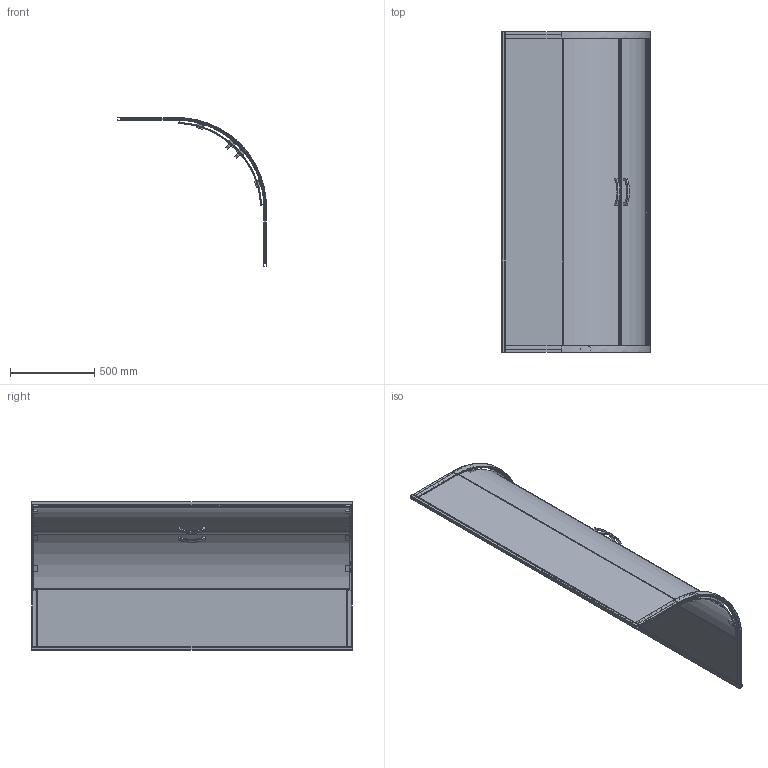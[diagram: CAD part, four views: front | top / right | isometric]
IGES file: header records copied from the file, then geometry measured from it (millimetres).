
Start section: SolidWorks IGES file using analytic representation for surfaces
Global section: file name: Y:\TKT\_PLIKI DLA ARCHITEKTÓW\01_KABINY\K19_TXU\KP4_TRINNITY_90.IGS; native system: SolidWorks 2018; preprocessor: SolidWorks 2018; author: k.halak; date: 190821.122820; units: millimetre
Bounding box: 882.5 x 1900 x 882.5 mm (x, y, z)
Surface area: 7689369.9 mm2 (no closed solid volume)
Topology: 0 solids, 0 shells, 478 faces, 3890 edges, 3890 vertices
Faces by surface type: bspline 350, revolution 128
